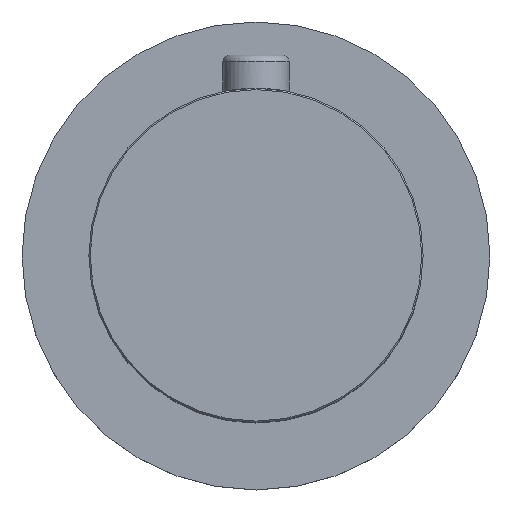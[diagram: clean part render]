
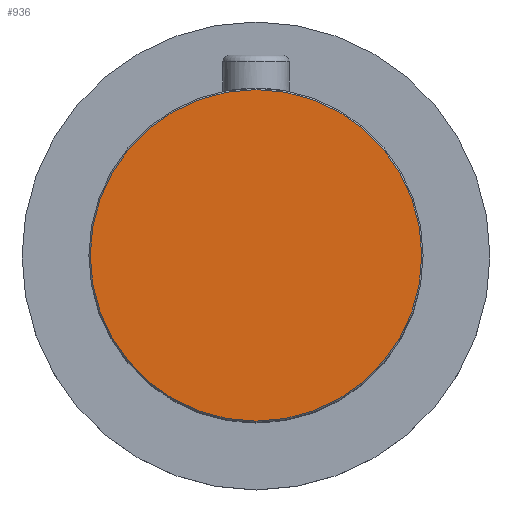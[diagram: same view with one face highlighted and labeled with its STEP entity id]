
A CAD part, top view. The second image highlights one B-rep face of the part: STEP entity #936.
In plain terms, the highlighted planar face has unit normal (0, 0, 1).
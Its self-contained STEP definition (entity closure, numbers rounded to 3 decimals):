
#438=CARTESIAN_POINT('',(0.,0.,58.5));
#439=DIRECTION('',(0.,0.,-1.));
#440=DIRECTION('',(0.,1.,0.));
#441=AXIS2_PLACEMENT_3D('',#438,#439,#440);
#443=CARTESIAN_POINT('',(0.,0.,58.5));
#444=DIRECTION('',(0.,0.,-1.));
#445=DIRECTION('',(0.,-1.,0.));
#446=AXIS2_PLACEMENT_3D('',#443,#444,#445);
#766=CARTESIAN_POINT('',(0.,24.8,
58.5));
#767=CARTESIAN_POINT('',(0.,-24.8,
58.5));
#768=VERTEX_POINT('',#766);
#769=VERTEX_POINT('',#767);
#927=CARTESIAN_POINT('',(27.28,27.28,58.5));
#928=DIRECTION('',(0.,0.,-1.));
#929=DIRECTION('',(0.,-1.,0.));
#930=AXIS2_PLACEMENT_3D('',#927,#928,#929);
#931=PLANE('',#930);
#932=ORIENTED_EDGE('',*,*,#920,.T.);
#933=ORIENTED_EDGE('',*,*,#906,.T.);
#934=EDGE_LOOP('',(#932,#933));
#935=FACE_OUTER_BOUND('',#934,.F.);
#442=CIRCLE('',#441,24.8);
#447=CIRCLE('',#446,24.8);
#906=EDGE_CURVE('',#769,#768,#447,.T.);
#920=EDGE_CURVE('',#768,#769,#442,.T.);
#936=ADVANCED_FACE('',(#935),#931,.F.);
